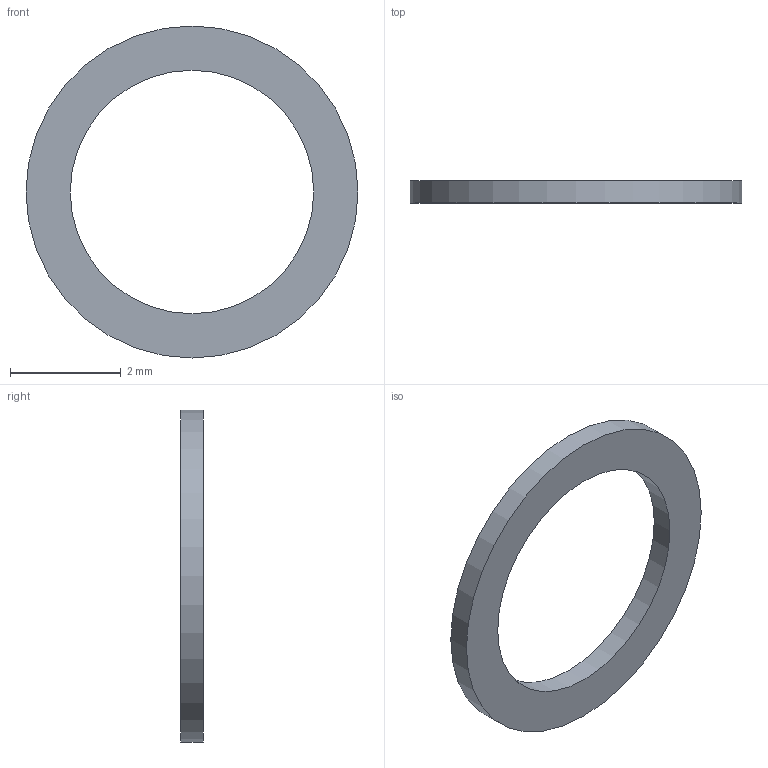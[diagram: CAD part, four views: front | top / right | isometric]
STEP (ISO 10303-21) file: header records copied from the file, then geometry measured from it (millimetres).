
FILE_DESCRIPTION(/* description */ (''),/* implementation_level */ '2;1');
FILE_NAME(/* name */ '6-19-4 Joy washer.step',/* time_stamp */ '2025-05-10T22:37:51+02:00',/* author */ (''),/* organization */ (''),/* preprocessor_version */ 'ST-DEVELOPER v20.1',/* originating_system */ 'Autodesk Translation Framework v14.4.0.0',/* authorisation */ '');
FILE_SCHEMA (('AUTOMOTIVE_DESIGN { 1 0 10303 214 3 1 1 }'));
Length unit declared in the file: millimetre
Products named in the file (1): 6-19-4 Joy washer
Bounding box: 6 x 0.4 x 6 mm (x, y, z)
Volume: 5.2 mm3; surface area: 39.2 mm2
Topology: 1 solids, 1 shells, 4 faces, 6 edges, 4 vertices
Faces by surface type: plane 2, cylinder 2
Full cylindrical faces by diameter (mm): 4.4 x1, 6 x1
Entity records: 138 total; most frequent: DIRECTION 20, CARTESIAN_POINT 15, ORIENTED_EDGE 12, AXIS2_PLACEMENT_3D 9, EDGE_LOOP 6, EDGE_CURVE 6, FACE_OUTER_BOUND 4, CIRCLE 4
